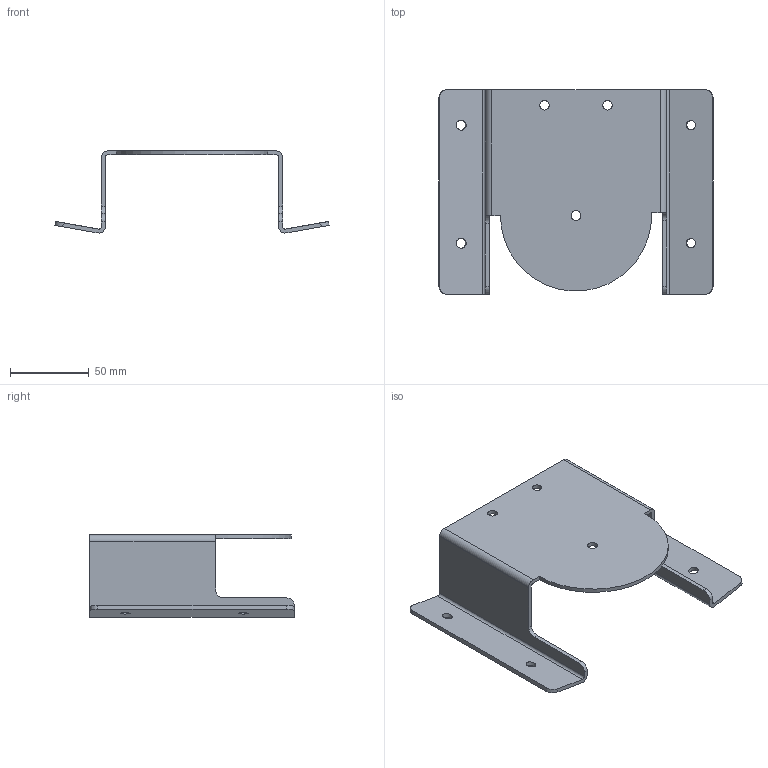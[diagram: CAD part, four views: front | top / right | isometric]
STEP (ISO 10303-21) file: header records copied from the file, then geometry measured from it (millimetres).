
FILE_DESCRIPTION( ( 'Unknown' ), '1' );
FILE_NAME( 'F:/navkite transat/construction/2016/3D ET ASSEMBLAGES/AMI/AMI 17.stp', 'Unknown', ( 'GMA' ), ( 'Unknown' ), 'XStep 1.0', 'Unknown', ' ' );
FILE_SCHEMA( ( 'automotive_design' ) );
Length unit declared in the file: millimetre
Products named in the file (1): 1
Bounding box: 174.09 x 130 x 52.17 mm (x, y, z)
Volume: 72278 mm3; surface area: 60509.4 mm2
Topology: 1 solids, 1 shells, 43 faces, 127 edges, 86 vertices
Faces by surface type: cylinder 24, plane 19
Full cylindrical faces by diameter (mm): 6 x4, 6.35 x3
Entity records: 1778 total; most frequent: DIRECTION 252, CARTESIAN_POINT 242, ORIENTED_EDGE 232, EDGE_CURVE 116, AXIS2_PLACEMENT_3D 92, VERTEX_POINT 82, LINE 68, VECTOR 68
